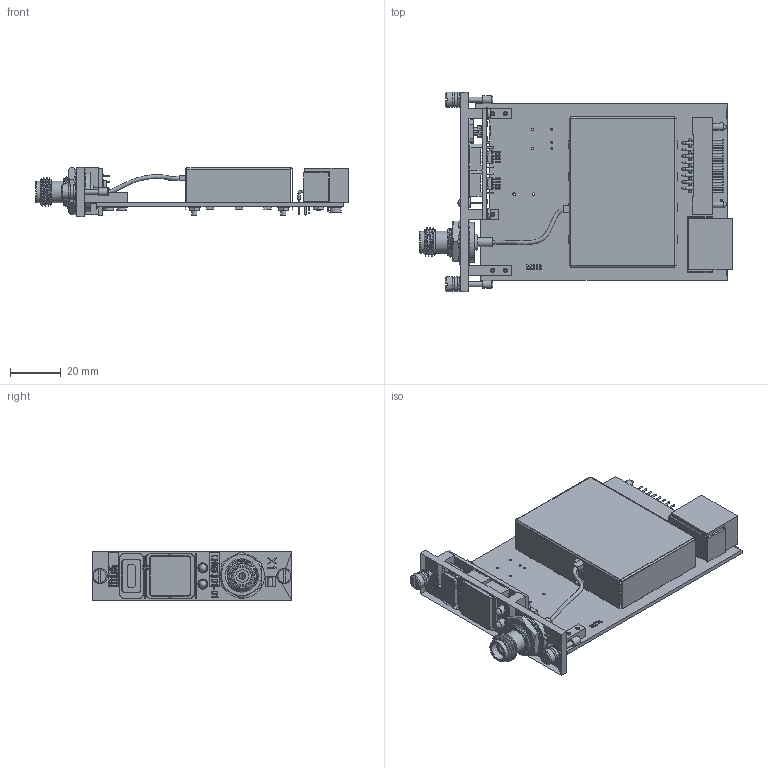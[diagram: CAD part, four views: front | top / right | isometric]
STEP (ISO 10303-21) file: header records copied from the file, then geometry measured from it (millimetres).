
FILE_DESCRIPTION(('STEP AP203'), '1');
FILE_NAME('帎迗.464349.002-01 沓劌錪 眝3_敊娕301-01', '', ('UNSPECIFIED'), ('UNSPECIFIED'), 'C3D Converter', 'C3D Toolkit', '');
FILE_SCHEMA(('CONFIG_CONTROL_DESIGN'));
Length unit declared in the file: millimetre
Products named in the file (1): КМНТ.464349.002-01
Bounding box: 122.65 x 78.5 x 19.6 mm (x, y, z)
Volume: 12019.9 mm3; surface area: 48731.1 mm2
Topology: 17 solids, 19 shells, 6068 faces, 16937 edges, 10846 vertices
Faces by surface type: plane 3929, cylinder 1609, bspline 325, sphere 103, torus 58, cone 44
Full cylindrical faces by diameter (mm): 0.5 x9, 0.508 x24, 0.6 x45, 0.66 x1, 0.7 x46, 0.8 x22, 0.9 x20, 1 x48, 1.1 x7, 1.4 x2, 1.567 x7, 1.6 x2, 2 x17, 2.2 x11, 2.4 x8, 2.459 x2, 2.49 x2, 2.5 x1, 2.618 x1, 3 x4, 3.2 x2, 3.4 x1, 3.5 x7, 3.8 x11, 4 x2, 4.5 x17, 5 x3, 6 x6, 7 x1, 8.6 x2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
Entity records: 274611 total; most frequent: CARTESIAN_POINT 72457, ORIENTED_EDGE 32764, DIRECTION 29794, EDGE_CURVE 16382, LINE 11814, VECTOR 11814, VERTEX_POINT 10828, AXIS2_PLACEMENT_3D 8990
